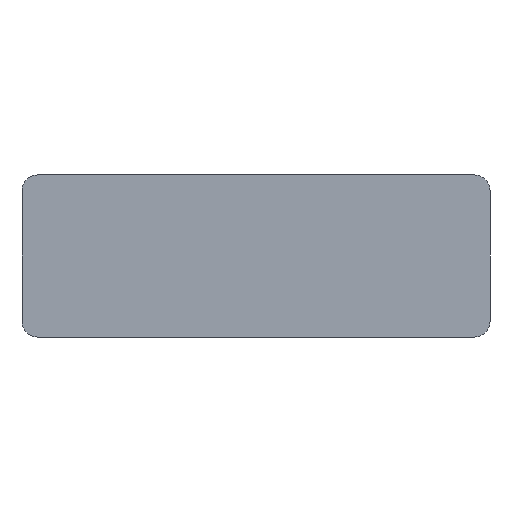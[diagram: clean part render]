
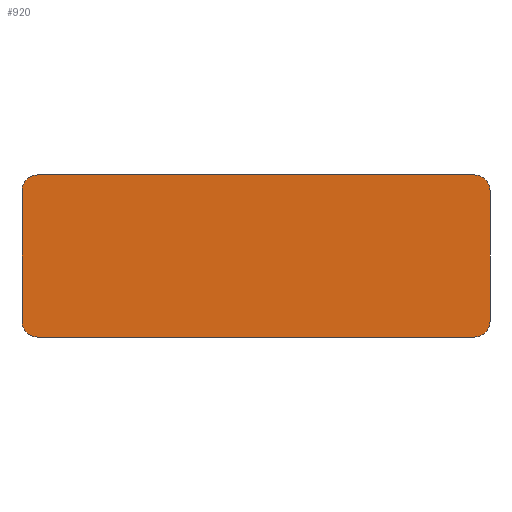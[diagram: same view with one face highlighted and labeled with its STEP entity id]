
A CAD part, front view. The second image highlights one B-rep face of the part: STEP entity #920.
In plain terms, the highlighted planar face has unit normal (0, -1, 0).
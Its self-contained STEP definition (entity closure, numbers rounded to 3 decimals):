
#43=CIRCLE('',#963,6.);
#45=CIRCLE('',#967,6.);
#46=CIRCLE('',#970,6.);
#48=CIRCLE('',#974,6.);
#123=FACE_OUTER_BOUND('',#175,.T.);
#175=EDGE_LOOP('',(#830,#831,#832,#833,#834,#835,#836,#837));
#210=LINE('',#1397,#304);
#213=LINE('',#1405,#307);
#216=LINE('',#1413,#310);
#271=LINE('',#1561,#365);
#304=VECTOR('',#1118,10.);
#307=VECTOR('',#1127,10.);
#310=VECTOR('',#1136,10.);
#365=VECTOR('',#1287,10.);
#394=VERTEX_POINT('',#1385);
#395=VERTEX_POINT('',#1387);
#398=VERTEX_POINT('',#1395);
#399=VERTEX_POINT('',#1399);
#400=VERTEX_POINT('',#1403);
#401=VERTEX_POINT('',#1407);
#402=VERTEX_POINT('',#1411);
#405=VERTEX_POINT('',#1419);
#491=EDGE_CURVE('',#394,#395,#43,.F.);
#496=EDGE_CURVE('',#398,#394,#210,.F.);
#498=EDGE_CURVE('',#399,#398,#45,.F.);
#500=EDGE_CURVE('',#400,#399,#213,.F.);
#502=EDGE_CURVE('',#401,#400,#46,.F.);
#504=EDGE_CURVE('',#402,#401,#216,.F.);
#508=EDGE_CURVE('',#405,#402,#48,.F.);
#577=EDGE_CURVE('',#395,#405,#271,.F.);
#830=ORIENTED_EDGE('',*,*,#498,.F.);
#831=ORIENTED_EDGE('',*,*,#500,.F.);
#832=ORIENTED_EDGE('',*,*,#502,.F.);
#833=ORIENTED_EDGE('',*,*,#504,.F.);
#834=ORIENTED_EDGE('',*,*,#508,.F.);
#835=ORIENTED_EDGE('',*,*,#577,.F.);
#836=ORIENTED_EDGE('',*,*,#491,.F.);
#837=ORIENTED_EDGE('',*,*,#496,.F.);
#869=PLANE('',#1020);
#920=ADVANCED_FACE('',(#123),#869,.F.);
#963=AXIS2_PLACEMENT_3D('',#1388,#1109,#1110);
#967=AXIS2_PLACEMENT_3D('',#1401,#1122,#1123);
#970=AXIS2_PLACEMENT_3D('',#1409,#1131,#1132);
#974=AXIS2_PLACEMENT_3D('',#1421,#1143,#1144);
#1020=AXIS2_PLACEMENT_3D('',#1562,#1288,#1289);
#1109=DIRECTION('center_axis',(0.,-1.,0.));
#1110=DIRECTION('ref_axis',(0.,0.,-1.));
#1118=DIRECTION('',(1.,0.,0.));
#1122=DIRECTION('center_axis',(0.,-1.,0.));
#1123=DIRECTION('ref_axis',(1.,0.,0.));
#1127=DIRECTION('',(0.,0.,1.));
#1131=DIRECTION('center_axis',(0.,-1.,0.));
#1132=DIRECTION('ref_axis',(0.,0.,1.));
#1136=DIRECTION('',(-1.,0.,0.));
#1143=DIRECTION('center_axis',(0.,-1.,0.));
#1144=DIRECTION('ref_axis',(-1.,0.,0.));
#1287=DIRECTION('',(0.,0.,-1.));
#1288=DIRECTION('center_axis',(0.,1.,0.));
#1289=DIRECTION('ref_axis',(1.,0.,0.));
#1385=CARTESIAN_POINT('',(3.,-3.,-58.));
#1387=CARTESIAN_POINT('',(-3.,-3.,-52.));
#1388=CARTESIAN_POINT('Origin',(3.,-3.,-52.));
#1395=CARTESIAN_POINT('',(167.,-3.,-58.));
#1397=CARTESIAN_POINT('',(126.,-3.,-58.));
#1399=CARTESIAN_POINT('',(173.,-3.,-52.));
#1401=CARTESIAN_POINT('Origin',(167.,-3.,-52.));
#1403=CARTESIAN_POINT('',(173.,-3.,-3.));
#1405=CARTESIAN_POINT('',(173.,-3.,-15.25));
#1407=CARTESIAN_POINT('',(167.,-3.,3.));
#1409=CARTESIAN_POINT('Origin',(167.,-3.,-3.));
#1411=CARTESIAN_POINT('',(3.,-3.,3.));
#1413=CARTESIAN_POINT('',(44.,-3.,3.));
#1419=CARTESIAN_POINT('',(-3.,-3.,-3.));
#1421=CARTESIAN_POINT('Origin',(3.,-3.,-3.));
#1561=CARTESIAN_POINT('',(-3.,-3.,-39.75));
#1562=CARTESIAN_POINT('Origin',(85.,-3.,-27.5));
